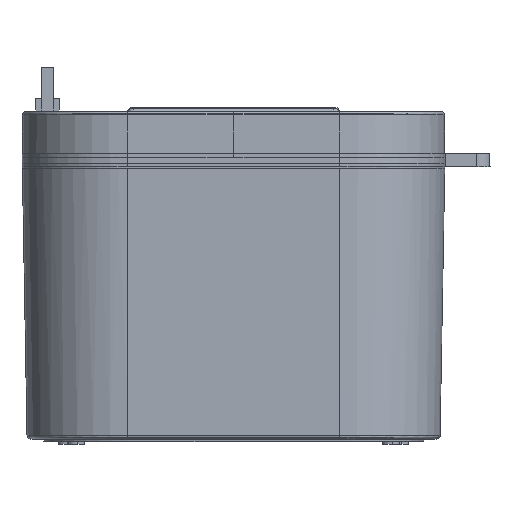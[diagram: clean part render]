
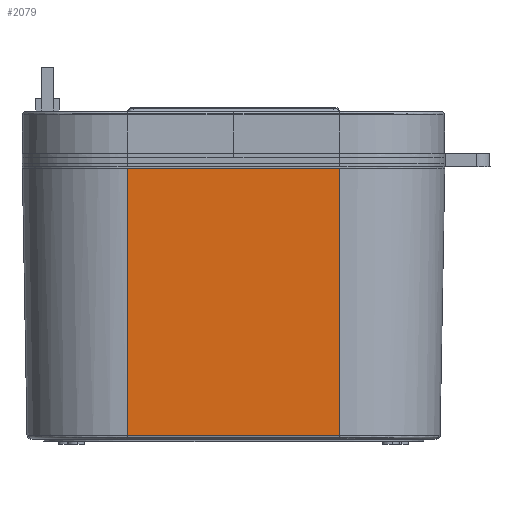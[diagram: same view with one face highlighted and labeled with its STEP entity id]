
A CAD part, left-side view. The second image highlights one B-rep face of the part: STEP entity #2079.
In plain terms, the highlighted planar face has unit normal (-1, 0, -0.018).
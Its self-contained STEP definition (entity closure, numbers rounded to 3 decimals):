
#1561=CARTESIAN_POINT('',(-899.858,-200.736,-107.314));
#1562=VERTEX_POINT('',#1561);
#1628=CARTESIAN_POINT('',(-899.858,200.736,-107.314));
#1629=VERTEX_POINT('',#1628);
#1630=CARTESIAN_POINT('',(-899.858,200.736,-107.314));
#1631=DIRECTION('',(0.0,-1.0,0.0));
#1632=VECTOR('',#1631,401.473);
#1633=LINE('',#1630,#1632);
#1634=EDGE_CURVE('',#1629,#1562,#1633,.T.);
#2037=CARTESIAN_POINT('',(-891.029,200.736,-613.147));
#2038=VERTEX_POINT('',#2037);
#2046=CARTESIAN_POINT('',(-899.858,200.736,-107.314));
#2047=DIRECTION('',(0.017,0.,-1.));
#2048=VECTOR('',#2047,505.91);
#2049=LINE('',#2046,#2048);
#2050=EDGE_CURVE('',#1629,#2038,#2049,.T.);
#2056=CARTESIAN_POINT('',(-900.3,-220.81,-82.022));
#2057=DIRECTION('',(-1.,0.0,-0.017));
#2058=DIRECTION('',(0.0,1.0,0.0));
#2059=AXIS2_PLACEMENT_3D('',#2056,#2057,#2058);
#2060=PLANE('',#2059);
#2061=ORIENTED_EDGE('',*,*,#2050,.T.);
#2062=CARTESIAN_POINT('',(-891.029,-200.736,-613.147));
#2063=VERTEX_POINT('',#2062);
#2064=CARTESIAN_POINT('',(-891.029,200.736,-613.147));
#2065=DIRECTION('',(0.0,-1.0,0.0));
#2066=VECTOR('',#2065,401.473);
#2067=LINE('',#2064,#2066);
#2068=EDGE_CURVE('',#2038,#2063,#2067,.T.);
#2069=ORIENTED_EDGE('',*,*,#2068,.T.);
#2070=CARTESIAN_POINT('',(-899.858,-200.736,-107.314));
#2071=DIRECTION('',(0.017,0.,-1.));
#2072=VECTOR('',#2071,505.91);
#2073=LINE('',#2070,#2072);
#2074=EDGE_CURVE('',#1562,#2063,#2073,.T.);
#2075=ORIENTED_EDGE('',*,*,#2074,.F.);
#2076=ORIENTED_EDGE('',*,*,#1634,.F.);
#2077=EDGE_LOOP('',(#2061,#2069,#2075,#2076));
#2078=FACE_OUTER_BOUND('',#2077,.T.);
#2079=ADVANCED_FACE('',(#2078),#2060,.T.);
